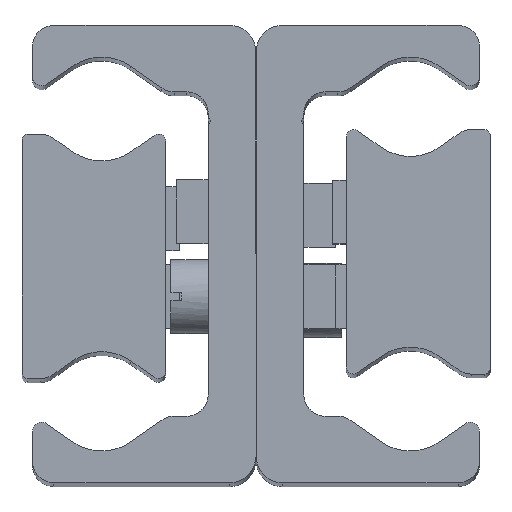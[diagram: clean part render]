
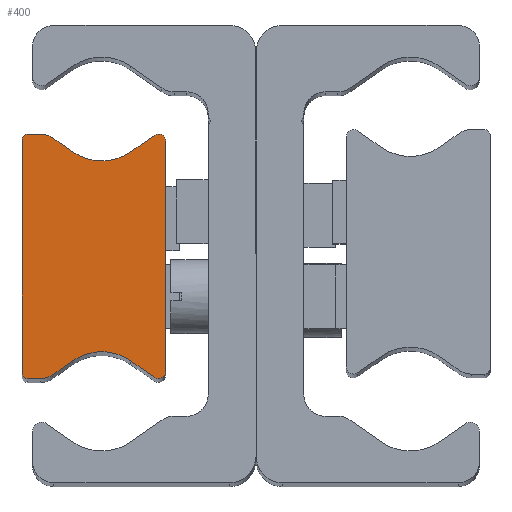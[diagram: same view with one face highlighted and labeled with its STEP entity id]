
A CAD part, top view. The second image highlights one B-rep face of the part: STEP entity #400.
In plain terms, the highlighted planar face has unit normal (0, 0, 1) as drawn and (0, 0, -1) by its records, which use the part's own axes.
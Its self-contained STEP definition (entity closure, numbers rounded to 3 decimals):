
#400 = ADVANCED_FACE( '', ( #807 ), #808, .F. );
#807 = FACE_OUTER_BOUND( '', #1229, .T. );
#808 = PLANE( '', #1230 );
#1229 = EDGE_LOOP( '', ( #2136, #2137, #2138, #2139, #2140, #2141, #2142, #2143, #2144, #2145, #2146, #2147, #2148, #2149, #2150, #2151 ) );
#1230 = AXIS2_PLACEMENT_3D( '', #2152, #2153, #2154 );
#2136 = ORIENTED_EDGE( '', *, *, #2757, .F. );
#2137 = ORIENTED_EDGE( '', *, *, #2759, .F. );
#2138 = ORIENTED_EDGE( '', *, *, #2528, .F. );
#2139 = ORIENTED_EDGE( '', *, *, #2496, .F. );
#2140 = ORIENTED_EDGE( '', *, *, #2760, .F. );
#2141 = ORIENTED_EDGE( '', *, *, #2680, .T. );
#2142 = ORIENTED_EDGE( '', *, *, #2698, .F. );
#2143 = ORIENTED_EDGE( '', *, *, #2728, .F. );
#2144 = ORIENTED_EDGE( '', *, *, #2761, .F. );
#2145 = ORIENTED_EDGE( '', *, *, #2513, .F. );
#2146 = ORIENTED_EDGE( '', *, *, #2752, .F. );
#2147 = ORIENTED_EDGE( '', *, *, #2406, .T. );
#2148 = ORIENTED_EDGE( '', *, *, #2492, .F. );
#2149 = ORIENTED_EDGE( '', *, *, #2762, .F. );
#2150 = ORIENTED_EDGE( '', *, *, #2664, .F. );
#2151 = ORIENTED_EDGE( '', *, *, #2589, .F. );
#2152 = CARTESIAN_POINT( '', ( 0.5, -11., -210. ) );
#2153 = DIRECTION( '', ( 0., 0., 1. ) );
#2154 = DIRECTION( '', ( 1., 0., 0. ) );
#2406 = EDGE_CURVE( '', #2822, #2820, #2823, .T. );
#2492 = EDGE_CURVE( '', #2973, #2820, #2975, .T. );
#2496 = EDGE_CURVE( '', #2980, #2982, #2983, .T. );
#2513 = EDGE_CURVE( '', #3008, #3010, #3011, .T. );
#2528 = EDGE_CURVE( '', #2982, #3033, #3034, .T. );
#2589 = EDGE_CURVE( '', #3131, #3133, #3134, .T. );
#2664 = EDGE_CURVE( '', #3133, #3238, #3239, .T. );
#2680 = EDGE_CURVE( '', #3261, #3259, #3262, .T. );
#2698 = EDGE_CURVE( '', #3286, #3259, #3288, .T. );
#2728 = EDGE_CURVE( '', #3324, #3286, #3326, .T. );
#2752 = EDGE_CURVE( '', #2822, #3008, #3353, .T. );
#2757 = EDGE_CURVE( '', #3359, #3131, #3361, .T. );
#2759 = EDGE_CURVE( '', #3033, #3359, #3363, .T. );
#2760 = EDGE_CURVE( '', #3261, #2980, #3364, .T. );
#2761 = EDGE_CURVE( '', #3010, #3324, #3365, .T. );
#2762 = EDGE_CURVE( '', #3238, #2973, #3366, .T. );
#2820 = VERTEX_POINT( '', #3432 );
#2822 = VERTEX_POINT( '', #3435 );
#2823 = CIRCLE( '', #3436, 4.763 );
#2973 = VERTEX_POINT( '', #3645 );
#2975 = LINE( '', #3648, #3649 );
#2980 = VERTEX_POINT( '', #3654 );
#2982 = VERTEX_POINT( '', #3657 );
#2983 = CIRCLE( '', #3658, 2. );
#3008 = VERTEX_POINT( '', #3693 );
#3010 = VERTEX_POINT( '', #3696 );
#3011 = CIRCLE( '', #3697, 0.668 );
#3033 = VERTEX_POINT( '', #3724 );
#3034 = LINE( '', #3725, #3726 );
#3131 = VERTEX_POINT( '', #3853 );
#3133 = VERTEX_POINT( '', #3856 );
#3134 = CIRCLE( '', #3857, 0.5 );
#3238 = VERTEX_POINT( '', #4000 );
#3239 = LINE( '', #4001, #4002 );
#3259 = VERTEX_POINT( '', #4028 );
#3261 = VERTEX_POINT( '', #4031 );
#3262 = CIRCLE( '', #4032, 4.763 );
#3286 = VERTEX_POINT( '', #4059 );
#3288 = LINE( '', #4062, #4063 );
#3324 = VERTEX_POINT( '', #4109 );
#3326 = CIRCLE( '', #4112, 0.668 );
#3353 = LINE( '', #4146, #4147 );
#3359 = VERTEX_POINT( '', #4153 );
#3361 = LINE( '', #4156, #4157 );
#3363 = CIRCLE( '', #4159, 0.5 );
#3364 = LINE( '', #4160, #4161 );
#3365 = LINE( '', #4162, #4163 );
#3366 = CIRCLE( '', #4164, 2. );
#3432 = CARTESIAN_POINT( '', ( 4.768, -9.827, -210. ) );
#3435 = CARTESIAN_POINT( '', ( 10.232, -9.827, -210. ) );
#3436 = AXIS2_PLACEMENT_3D( '', #4235, #4236, #4237 );
#3645 = CARTESIAN_POINT( '', ( 2.895, -11.138, -210. ) );
#3648 = CARTESIAN_POINT( '', ( 2.895, -11.138, -210. ) );
#3649 = VECTOR( '', #4331, 1000. );
#3654 = CARTESIAN_POINT( '', ( 2.895, 11.138, -210. ) );
#3657 = CARTESIAN_POINT( '', ( 1.748, 11.5, -210. ) );
#3658 = AXIS2_PLACEMENT_3D( '', #4336, #4337, #4338 );
#3693 = CARTESIAN_POINT( '', ( 12.449, -11.379, -210. ) );
#3696 = CARTESIAN_POINT( '', ( 13.5, -10.832, -210. ) );
#3697 = AXIS2_PLACEMENT_3D( '', #4353, #4354, #4355 );
#3724 = CARTESIAN_POINT( '', ( 0.5, 11.5, -210. ) );
#3725 = CARTESIAN_POINT( '', ( 1.748, 11.5, -210. ) );
#3726 = VECTOR( '', #4376, 1000. );
#3853 = CARTESIAN_POINT( '', ( 0., -11., -210. ) );
#3856 = CARTESIAN_POINT( '', ( 0.5, -11.5, -210. ) );
#3857 = AXIS2_PLACEMENT_3D( '', #4453, #4454, #4455 );
#4000 = CARTESIAN_POINT( '', ( 1.748, -11.5, -210. ) );
#4001 = CARTESIAN_POINT( '', ( 0.5, -11.5, -210. ) );
#4002 = VECTOR( '', #4549, 1000. );
#4028 = CARTESIAN_POINT( '', ( 10.232, 9.827, -210. ) );
#4031 = CARTESIAN_POINT( '', ( 4.768, 9.827, -210. ) );
#4032 = AXIS2_PLACEMENT_3D( '', #4569, #4570, #4571 );
#4059 = CARTESIAN_POINT( '', ( 12.449, 11.379, -210. ) );
#4062 = CARTESIAN_POINT( '', ( 12.449, 11.379, -210. ) );
#4063 = VECTOR( '', #4594, 1000. );
#4109 = CARTESIAN_POINT( '', ( 13.5, 10.832, -210. ) );
#4112 = AXIS2_PLACEMENT_3D( '', #4630, #4631, #4632 );
#4146 = CARTESIAN_POINT( '', ( 10.232, -9.827, -210. ) );
#4147 = VECTOR( '', #4646, 1000. );
#4153 = CARTESIAN_POINT( '', ( 0., 11., -210. ) );
#4156 = CARTESIAN_POINT( '', ( 0., 11., -210. ) );
#4157 = VECTOR( '', #4654, 1000. );
#4159 = AXIS2_PLACEMENT_3D( '', #4655, #4656, #4657 );
#4160 = CARTESIAN_POINT( '', ( 4.768, 9.827, -210. ) );
#4161 = VECTOR( '', #4658, 1000. );
#4162 = CARTESIAN_POINT( '', ( 13.5, -10.832, -210. ) );
#4163 = VECTOR( '', #4659, 1000. );
#4164 = AXIS2_PLACEMENT_3D( '', #4660, #4661, #4662 );
#4235 = CARTESIAN_POINT( '', ( 7.5, -13.729, -210. ) );
#4236 = DIRECTION( '', ( 0., 0., 1. ) );
#4237 = DIRECTION( '', ( 1., 0., 0. ) );
#4331 = DIRECTION( '', ( 0.819, 0.574, 0. ) );
#4336 = CARTESIAN_POINT( '', ( 1.748, 9.5, -210. ) );
#4337 = DIRECTION( '', ( 0., 0., 1. ) );
#4338 = DIRECTION( '', ( 1., 0., 0. ) );
#4353 = CARTESIAN_POINT( '', ( 12.832, -10.832, -210. ) );
#4354 = DIRECTION( '', ( 0., 0., 1. ) );
#4355 = DIRECTION( '', ( 1., 0., 0. ) );
#4376 = DIRECTION( '', ( -1., 0., 0. ) );
#4453 = CARTESIAN_POINT( '', ( 0.5, -11., -210. ) );
#4454 = DIRECTION( '', ( 0., 0., 1. ) );
#4455 = DIRECTION( '', ( 1., 0., 0. ) );
#4549 = DIRECTION( '', ( 1., 0., 0. ) );
#4569 = CARTESIAN_POINT( '', ( 7.5, 13.729, -210. ) );
#4570 = DIRECTION( '', ( 0., 0., 1. ) );
#4571 = DIRECTION( '', ( 1., 0., 0. ) );
#4594 = DIRECTION( '', ( -0.819, -0.574, 0. ) );
#4630 = CARTESIAN_POINT( '', ( 12.832, 10.832, -210. ) );
#4631 = DIRECTION( '', ( 0., 0., 1. ) );
#4632 = DIRECTION( '', ( 1., 0., 0. ) );
#4646 = DIRECTION( '', ( 0.819, -0.574, 0. ) );
#4654 = DIRECTION( '', ( 0., -1., 0. ) );
#4655 = CARTESIAN_POINT( '', ( 0.5, 11., -210. ) );
#4656 = DIRECTION( '', ( 0., 0., 1. ) );
#4657 = DIRECTION( '', ( 1., 0., 0. ) );
#4658 = DIRECTION( '', ( -0.819, 0.574, 0. ) );
#4659 = DIRECTION( '', ( 0., 1., 0. ) );
#4660 = CARTESIAN_POINT( '', ( 1.748, -9.5, -210. ) );
#4661 = DIRECTION( '', ( 0., 0., 1. ) );
#4662 = DIRECTION( '', ( 1., 0., 0. ) );
